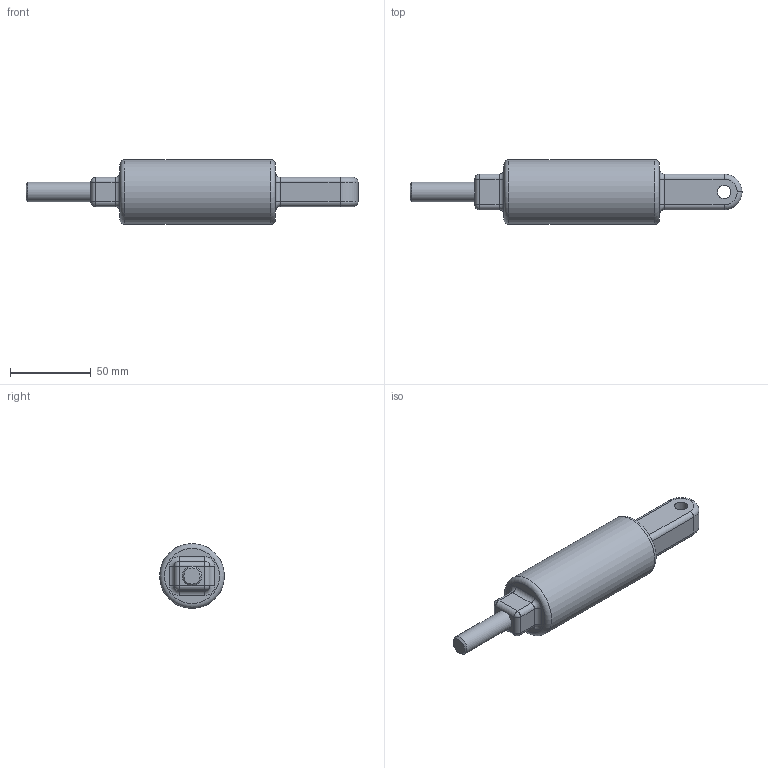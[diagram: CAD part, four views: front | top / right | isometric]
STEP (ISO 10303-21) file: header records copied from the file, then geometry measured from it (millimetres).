
FILE_DESCRIPTION (( 'STEP AP214' ), '1' );
FILE_NAME ('Èçîëÿòîð òÿãîâûé ÈÒÃÐËÏ-10-750-40-ÓÕË2-ÊÝÀÇ.STEP', '2023-02-02T05:45:11', ( '' ), ( '' ), 'SwSTEP 2.0', 'SolidWorks 2018', '' );
FILE_SCHEMA (( 'AUTOMOTIVE_DESIGN' ));
Length unit declared in the file: millimetre
Products named in the file (1): Èçîëÿòîð òÿãîâûé ÈÒÃÐËÏ-10-750-40-ÓÕË2-ÊÝÀÇ
Bounding box: 205 x 40 x 40 mm (x, y, z)
Volume: 149708.2 mm3; surface area: 20665.1 mm2
Topology: 1 solids, 1 shells, 57 faces, 125 edges, 68 vertices
Faces by surface type: cylinder 25, torus 14, plane 13, sphere 4, cone 1
Full cylindrical faces by diameter (mm): 8.2 x1, 12 x1, 40 x1
Entity records: 1509 total; most frequent: DIRECTION 297, CARTESIAN_POINT 237, ORIENTED_EDGE 226, AXIS2_PLACEMENT_3D 126, EDGE_CURVE 113, CIRCLE 68, EDGE_LOOP 67, VERTEX_POINT 66
